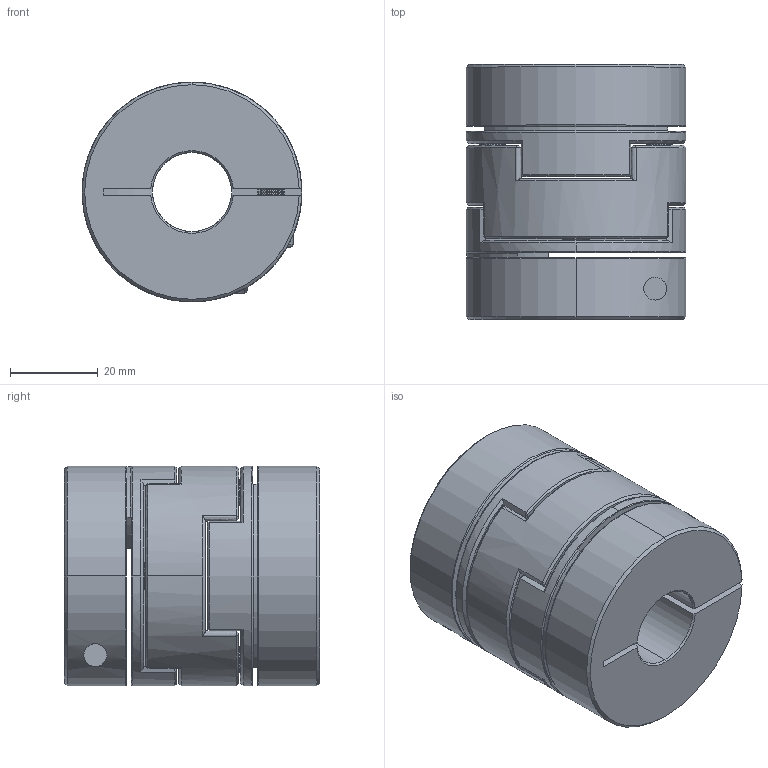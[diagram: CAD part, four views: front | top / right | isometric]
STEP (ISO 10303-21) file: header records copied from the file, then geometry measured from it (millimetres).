
FILE_DESCRIPTION (( 'STEP AP203' ), '1' );
FILE_NAME ('LZ-B-D50L58-18-18.STEP', '2021-10-29T08:12:56', ( '' ), ( '' ), 'SwSTEP 2.0', 'SolidWorks 2018', '' );
FILE_SCHEMA (( 'CONFIG_CONTROL_DESIGN' ));
Length unit declared in the file: millimetre
Products named in the file (1): LZ-B-D50L58-18-18
Bounding box: 50 x 58 x 50 mm (x, y, z)
Volume: 90620.7 mm3; surface area: 29934 mm2
Topology: 1 solids, 27 shells, 560 faces, 1364 edges, 810 vertices
Faces by surface type: cone 252, cylinder 160, plane 90, bspline 54, torus 4
Entity records: 17422 total; most frequent: CARTESIAN_POINT 4342, DIRECTION 2782, ORIENTED_EDGE 2720, EDGE_CURVE 1360, AXIS2_PLACEMENT_3D 1123, VERTEX_POINT 810, CIRCLE 616, EDGE_LOOP 594
